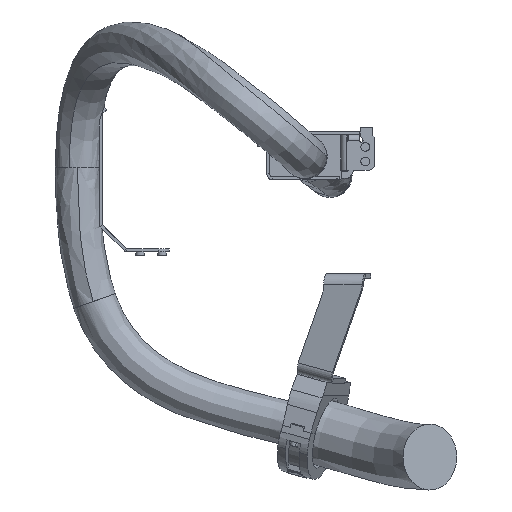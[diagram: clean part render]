
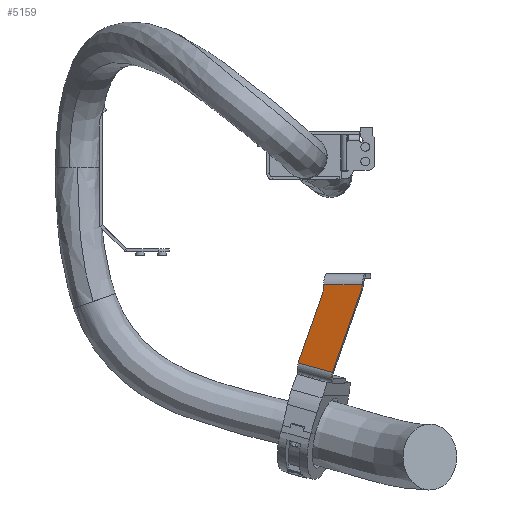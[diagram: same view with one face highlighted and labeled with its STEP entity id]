
A CAD part, top view. The second image highlights one B-rep face of the part: STEP entity #5159.
In plain terms, the highlighted planar face has unit normal (-0.259, 0, 0.966).
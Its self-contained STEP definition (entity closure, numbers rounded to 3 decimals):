
#206 = VECTOR ( 'NONE', #20618, 1000. ) ;
#1394 = LINE ( 'NONE', #4535, #7386 ) ;
#2433 = LINE ( 'NONE', #9004, #206 ) ;
#2512 = DIRECTION ( 'NONE',  ( -0.259, 0., 0.966 ) ) ;
#2888 = VERTEX_POINT ( 'NONE', #8690 ) ;
#3414 = AXIS2_PLACEMENT_3D ( 'NONE', #20238, #8747, #7169 ) ;
#3507 = DIRECTION ( 'NONE',  ( -0.966, 0., -0.259 ) ) ;
#3562 = VERTEX_POINT ( 'NONE', #12386 ) ;
#4130 = CARTESIAN_POINT ( 'NONE',  ( 35.638, -155.47, 513.922 ) ) ;
#4535 = CARTESIAN_POINT ( 'NONE',  ( -13.677, -267.059, 500.708 ) ) ;
#4673 = VERTEX_POINT ( 'NONE', #16356 ) ;
#4685 = DIRECTION ( 'NONE',  ( 0., 1., 0. ) ) ;
#4708 = LINE ( 'NONE', #16493, #19976 ) ;
#4832 = DIRECTION ( 'NONE',  ( -0.33, -0.94, -0.089 ) ) ;
#4932 = CARTESIAN_POINT ( 'NONE',  ( 18.819, -174.628, 509.415 ) ) ;
#4948 = CARTESIAN_POINT ( 'NONE',  ( 32.974, -280., 513.208 ) ) ;
#5013 = LINE ( 'NONE', #16276, #8506 ) ;
#5159 = ADVANCED_FACE ( 'NONE', ( #10378 ), #15371, .F. ) ;
#5874 = CARTESIAN_POINT ( 'NONE',  ( 21.149, -160.947, 510.039 ) ) ;
#6170 = ORIENTED_EDGE ( 'NONE', *, *, #17741, .T. ) ;
#7146 = CIRCLE ( 'NONE', #3414, 40. ) ;
#7169 = DIRECTION ( 'NONE',  ( 0., 1., 0. ) ) ;
#7386 = VECTOR ( 'NONE', #14392, 1000. ) ;
#8423 = CARTESIAN_POINT ( 'NONE',  ( 71.945, -169.15, 523.65 ) ) ;
#8506 = VECTOR ( 'NONE', #14467, 1000. ) ;
#8690 = CARTESIAN_POINT ( 'NONE',  ( 74.026, -160., 524.208 ) ) ;
#8747 = DIRECTION ( 'NONE',  ( 0.259, 0., -0.966 ) ) ;
#8976 = DIRECTION ( 'NONE',  ( 0., 1., 0. ) ) ;
#9004 = CARTESIAN_POINT ( 'NONE',  ( -13.677, -267.059, 500.708 ) ) ;
#9010 = ORIENTED_EDGE ( 'NONE', *, *, #14848, .T. ) ;
#9774 = CARTESIAN_POINT ( 'NONE',  ( 32.974, -280., 513.208 ) ) ;
#10017 = EDGE_LOOP ( 'NONE', ( #10145, #15929, #13449, #11367, #6170, #19947, #9010 ) ) ;
#10075 = EDGE_CURVE ( 'NONE', #4673, #11978, #5013, .T. ) ;
#10145 = ORIENTED_EDGE ( 'NONE', *, *, #11105, .F. ) ;
#10378 = FACE_OUTER_BOUND ( 'NONE', #10017, .T. ) ;
#10638 = AXIS2_PLACEMENT_3D ( 'NONE', #4130, #2512, #8976 ) ;
#11105 = EDGE_CURVE ( 'NONE', #16627, #14375, #13107, .T. ) ;
#11142 = VECTOR ( 'NONE', #4832, 1000. ) ;
#11367 = ORIENTED_EDGE ( 'NONE', *, *, #10075, .T. ) ;
#11475 = EDGE_CURVE ( 'NONE', #2888, #4673, #4708, .T. ) ;
#11557 = AXIS2_PLACEMENT_3D ( 'NONE', #15822, #17516, #4685 ) ;
#11978 = VERTEX_POINT ( 'NONE', #5874 ) ;
#12386 = CARTESIAN_POINT ( 'NONE',  ( -13.677, -267.059, 500.708 ) ) ;
#13107 = LINE ( 'NONE', #9774, #11142 ) ;
#13449 = ORIENTED_EDGE ( 'NONE', *, *, #11475, .T. ) ;
#14058 = CIRCLE ( 'NONE', #10638, 40. ) ;
#14375 = VERTEX_POINT ( 'NONE', #4948 ) ;
#14392 = DIRECTION ( 'NONE',  ( -0.33, -0.94, -0.089 ) ) ;
#14467 = DIRECTION ( 'NONE',  ( 0., -1., 0. ) ) ;
#14848 = EDGE_CURVE ( 'NONE', #3562, #14375, #2433, .T. ) ;
#15122 = EDGE_CURVE ( 'NONE', #18274, #3562, #1394, .T. ) ;
#15371 = PLANE ( 'NONE',  #11557 ) ;
#15822 = CARTESIAN_POINT ( 'NONE',  ( 74.275, -145., 524.274 ) ) ;
#15929 = ORIENTED_EDGE ( 'NONE', *, *, #20899, .T. ) ;
#16276 = CARTESIAN_POINT ( 'NONE',  ( 21.149, -145., 510.039 ) ) ;
#16356 = CARTESIAN_POINT ( 'NONE',  ( 21.149, -160., 510.039 ) ) ;
#16493 = CARTESIAN_POINT ( 'NONE',  ( 74.275, -160., 524.274 ) ) ;
#16627 = VERTEX_POINT ( 'NONE', #8423 ) ;
#17516 = DIRECTION ( 'NONE',  ( 0.259, 0., -0.966 ) ) ;
#17741 = EDGE_CURVE ( 'NONE', #11978, #18274, #7146, .T. ) ;
#18274 = VERTEX_POINT ( 'NONE', #4932 ) ;
#19947 = ORIENTED_EDGE ( 'NONE', *, *, #15122, .T. ) ;
#19976 = VECTOR ( 'NONE', #3507, 1000. ) ;
#20238 = CARTESIAN_POINT ( 'NONE',  ( -17.488, -160.947, 499.686 ) ) ;
#20618 = DIRECTION ( 'NONE',  ( 0.933, -0.259, 0.25 ) ) ;
#20899 = EDGE_CURVE ( 'NONE', #16627, #2888, #14058, .T. ) ;
